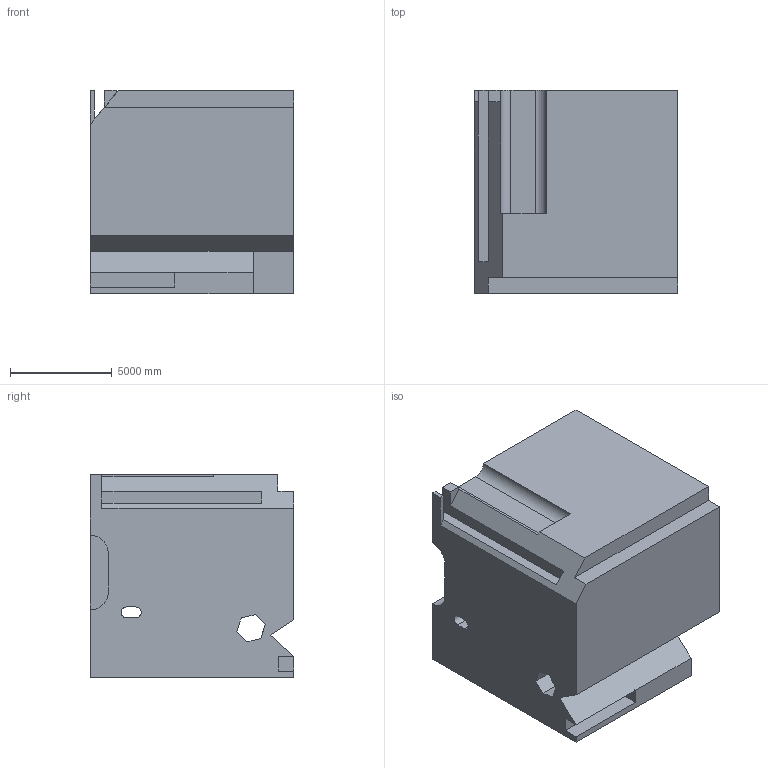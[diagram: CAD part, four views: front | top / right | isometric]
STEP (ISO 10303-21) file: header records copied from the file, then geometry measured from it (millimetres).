
FILE_DESCRIPTION (( 'STEP AP203' ), '1' );
FILE_NAME ('94.STEP', '2022-09-02T14:12:51', ( 'user' ), ( '' ), 'SwSTEP 2.0', 'SolidWorks 2021', '' );
FILE_SCHEMA (( 'CONFIG_CONTROL_DESIGN' ));
Length unit declared in the file: centimetre
Products named in the file (1): 94
Bounding box: 10000 x 10000 x 10000 mm (x, y, z)
Volume: 879550780385.7 mm3; surface area: 678111534.1 mm2
Topology: 1 solids, 1 shells, 46 faces, 132 edges, 87 vertices
Faces by surface type: plane 40, cylinder 6
Entity records: 1570 total; most frequent: CARTESIAN_POINT 266, ORIENTED_EDGE 264, DIRECTION 239, EDGE_CURVE 132, VECTOR 119, LINE 119, VERTEX_POINT 87, AXIS2_PLACEMENT_3D 60
